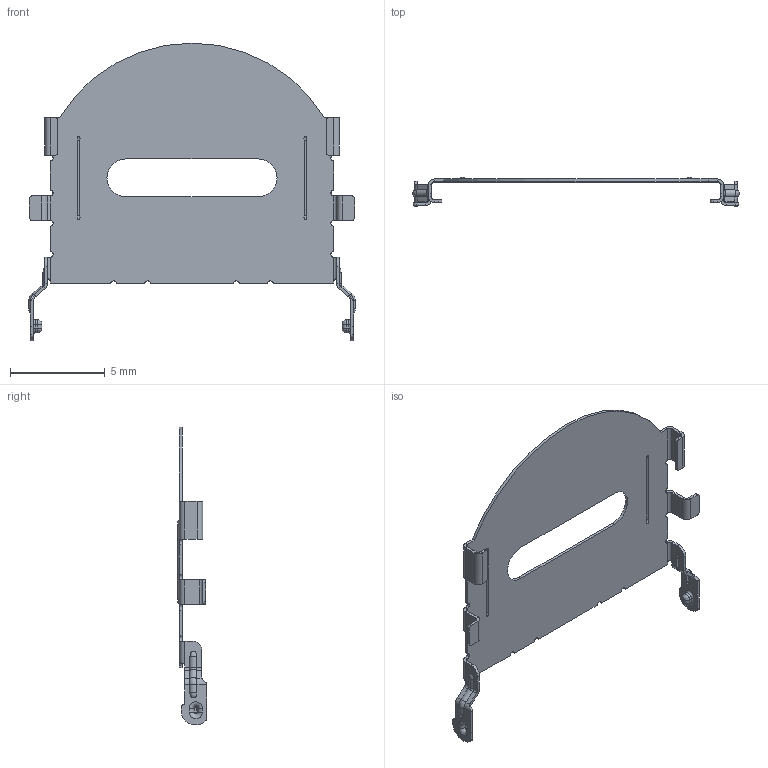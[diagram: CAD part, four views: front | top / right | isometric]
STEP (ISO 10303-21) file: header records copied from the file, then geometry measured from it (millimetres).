
FILE_DESCRIPTION((''),'2;1');
FILE_NAME('S-DSC20-214XX0_1_PRT','2008-06-30T',('GRA'),(''),'PRO/ENGINEER BY PARAMETRIC TECHNOLOGY CORPORATION, 2006170','PRO/ENGINEER BY PARAMETRIC TECHNOLOGY CORPORATION, 2006170','');
FILE_SCHEMA(('CONFIG_CONTROL_DESIGN'));
Length unit declared in the file: millimetre
Products named in the file (1): S-DSC20-214XX0_1_PRT
Bounding box: 17.29 x 1.54 x 15.75 mm (x, y, z)
Volume: 26.7 mm3; surface area: 375.3 mm2
Topology: 1 solids, 1 shells, 511 faces, 1360 edges, 872 vertices
Faces by surface type: plane 350, cylinder 111, bspline 24, torus 24, extrusion 2
Entity records: 16720 total; most frequent: CARTESIAN_POINT 3897, ORIENTED_EDGE 2720, DIRECTION 2586, EDGE_CURVE 1360, VECTOR 1020, LINE 1018, VERTEX_POINT 872, AXIS2_PLACEMENT_3D 783
